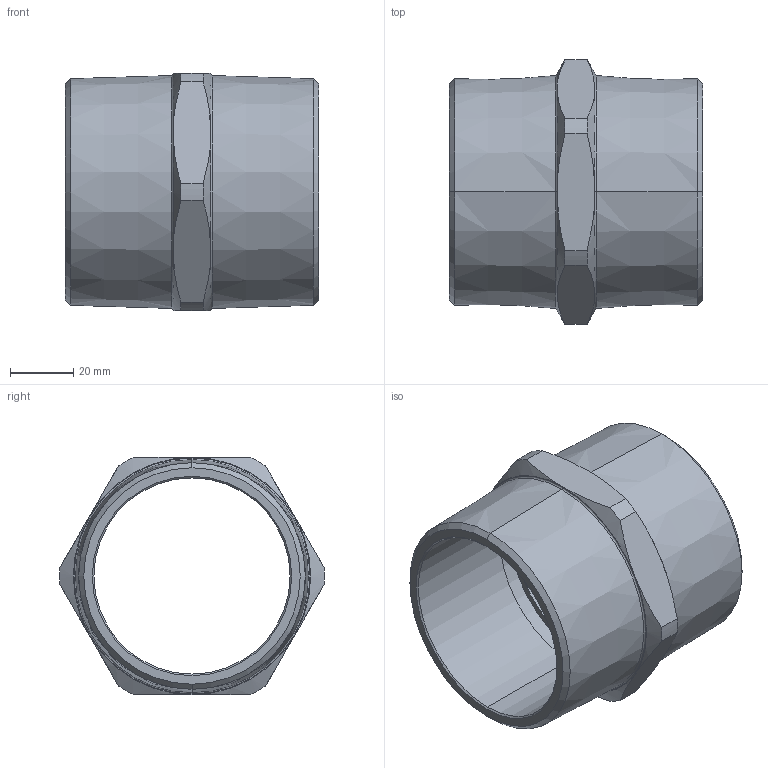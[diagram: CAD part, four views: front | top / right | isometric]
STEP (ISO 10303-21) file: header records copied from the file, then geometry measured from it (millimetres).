
FILE_DESCRIPTION (( 'STEP AP203' ), '1' );
FILE_NAME ('ﾍﾂﾍ7Nﾍ.STEP', '2019-06-05T12:29:38', ( '' ), ( '' ), 'SwSTEP 2.0', 'SolidWorks 2012', '' );
FILE_SCHEMA (( 'CONFIG_CONTROL_DESIGN' ));
Length unit declared in the file: millimetre
Products named in the file (1): ﾍﾂﾍ7Nﾍ
Bounding box: 80 x 83.68 x 75 mm (x, y, z)
Volume: 94232.8 mm3; surface area: 37187.8 mm2
Topology: 1 solids, 1 shells, 52 faces, 114 edges, 68 vertices
Faces by surface type: cone 24, cylinder 12, plane 12, torus 4
Entity records: 1635 total; most frequent: CARTESIAN_POINT 411, DIRECTION 256, ORIENTED_EDGE 228, EDGE_CURVE 114, AXIS2_PLACEMENT_3D 113, VERTEX_POINT 68, CIRCLE 60, EDGE_LOOP 58
